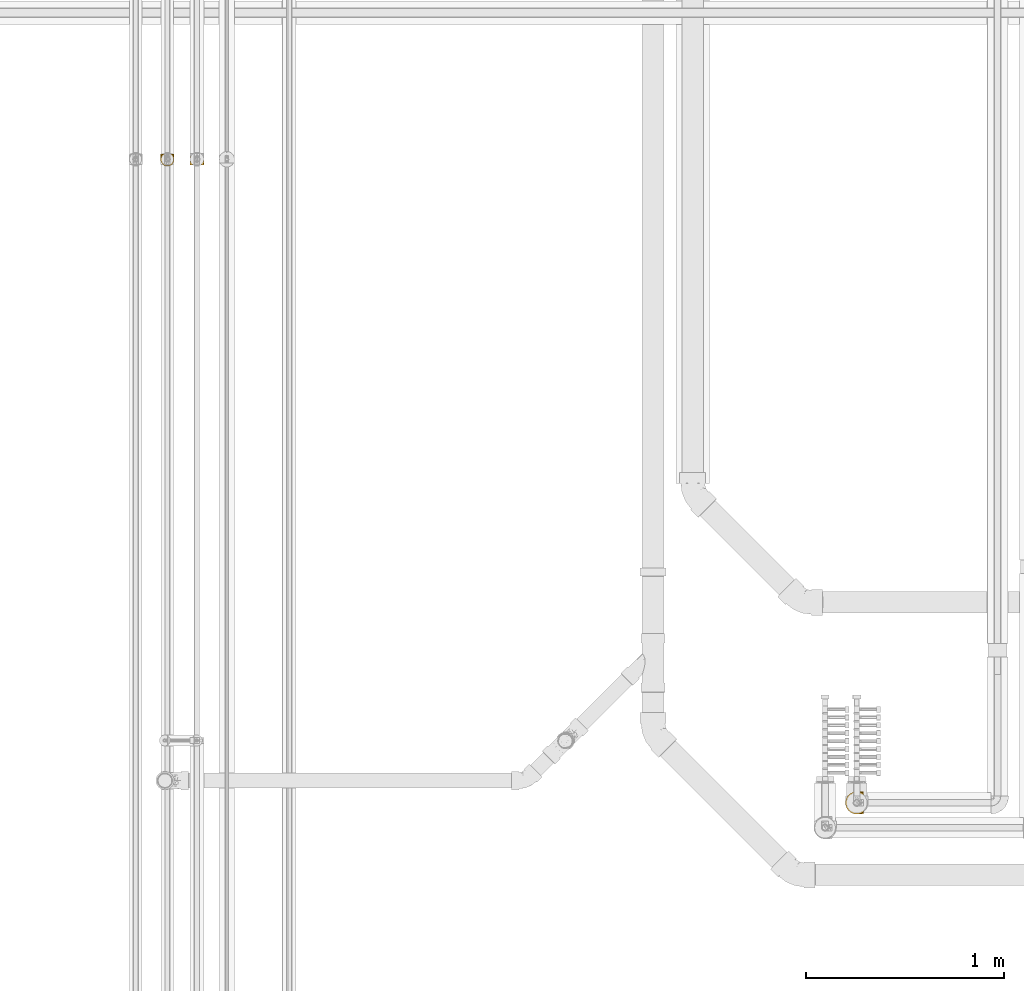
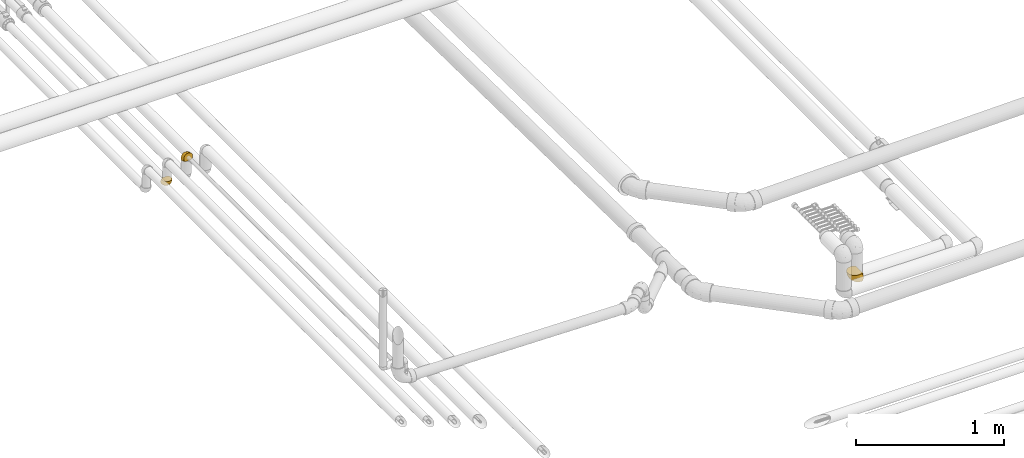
# One storey, part 17 of 83: 3 coverings.
"""IFC2X3 building model written with IfcOpenShell, lengths in millimetres."""

from ifc_helpers import new_model, entity, si_unit, converted_unit, derived_unit, direction, frame, origin_with_axes, place, context, subcontext, project, spatial, open_shell, surface_model, source, transform, mapped, element, save


model = new_model("IFC2X3")

# Units and contexts
model_context = context("Model", 3, precision=0.01, world=frame((0.0, 4.29681676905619e-09, 0.0)), true_north=direction((4.01073788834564e-13, 1.0)))
plan_context = context("Plan", 3, precision=0.01, world=frame((0.0, 4.29681676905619e-09, 0.0)), true_north=direction((4.01073788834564e-13, 1.0)))
body_context = subcontext(model_context, "Body", "Model", "MODEL_VIEW")
ifc_project = project(units=[converted_unit("PLANEANGLEUNIT", "DEGREE", entity("IfcPositiveLengthMeasure", 0.0174532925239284), si_unit("PLANEANGLEUNIT", "RADIAN"), dimensions=[0, 0, 0, 0, 0, 0, 0]), si_unit("AREAUNIT", "SQUARE_METRE"), si_unit("LENGTHUNIT", "METRE", prefix="MILLI"), si_unit("MASSUNIT", "GRAM", prefix="KILO"), si_unit("POWERUNIT", "WATT"), si_unit("PRESSUREUNIT", "PASCAL"), si_unit("FORCEUNIT", "NEWTON", prefix="KILO"), si_unit("ELECTRICVOLTAGEUNIT", "VOLT"), si_unit("ELECTRICCURRENTUNIT", "AMPERE"), si_unit("THERMODYNAMICTEMPERATUREUNIT", "DEGREE_CELSIUS"), si_unit("TIMEUNIT", "SECOND"), si_unit("VOLUMEUNIT", "CUBIC_METRE"), derived_unit("LINEARVELOCITYUNIT", [(si_unit("LENGTHUNIT", "METRE"), 1), (si_unit("TIMEUNIT", "SECOND"), -1)]), derived_unit("VOLUMETRICFLOWRATEUNIT", [(si_unit("VOLUMEUNIT", "CUBIC_METRE"), 1), (si_unit("TIMEUNIT", "SECOND"), -1)]), derived_unit("THERMALTRANSMITTANCEUNIT", [(si_unit("POWERUNIT", "WATT"), 1), (si_unit("THERMODYNAMICTEMPERATUREUNIT", "KELVIN"), -1), (si_unit("AREAUNIT", "SQUARE_METRE"), -1)]), derived_unit("SOUNDPRESSUREUNIT", [(si_unit("PRESSUREUNIT", "PASCAL"), 1)])], contexts=[model_context, plan_context])

# Site, building, storey
site_placement = place(None, frame((0.0, -4.29681676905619e-09, 0.0), z_axis=(0.0, 0.0, 1.0), x_axis=(1.0, 0.0, 0.0)))
site = spatial("IfcSite", under=ifc_project, at=site_placement, Name="ENGM", CompositionType="ELEMENT")
building_placement = place(site_placement, frame((0.0, 4.29681676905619e-09, 0.0), z_axis=(0.0, 0.0, 1.0), x_axis=(1.0, 0.0, 0.0)))
building = spatial("IfcBuilding", under=site, at=building_placement, Name="TI", CompositionType="ELEMENT")
storey_placement = place(building_placement, frame((0.0, 0.0, 204000.0), z_axis=(0.0, 0.0, 1.0), x_axis=(1.0, 0.0, 0.0)))
storey = spatial("IfcBuildingStorey", under=building, at=storey_placement, Name="Nivå D", CompositionType="ELEMENT", Elevation=204000.0)

# Coverings
shared_shape_1 = source(origin_with_axes(), body_context, "Body", "SurfaceModel", [
    surface_model("IfcShellBasedSurfaceModel", [(-0.0006, 33.8006, 56.9), (24.69381, 33.80104, 51.26203), (35.48365, 33.80124, 44.48008), (51.27049, 33.80152, 24.67561), (56.8994, 33.80162, 0.0), (44.49309, 33.8014, 35.46718), (-33.34119, 33.80001, -46.10873), (-11.7756, 33.80039, 55.6683), (-33.34119, 33.80001, 46.10873), (-23.05765, 33.80019, 52.01906), (12.66462, 33.80083, 55.47253), (55.47615, 33.8016, 12.64674), (55.47193, 33.8016, -12.66523), (44.47948, 33.8014, -35.48425), (51.26142, 33.80152, -24.69442), (24.675, 33.80104, -51.27108), (35.46658, 33.80124, -44.4937), (-23.07764, 33.80019, -52.01019), (-11.797, 33.80039, -55.66377), (12.64614, 33.80083, -55.47675), (-0.0006, 33.8006, -56.9), (-33.8006, 33.34059, 46.10873), (-33.8006, 33.34059, -46.10873), (-33.8006, 23.06476, -52.01564), (-33.8006, 11.78813, -55.66552), (-33.8006, 0.0, -56.9), (-33.8006, 0.0, 56.9), (-33.8006, 23.06476, 52.01564), (-33.8006, 11.78813, 55.66552), (-33.8006, -14.7268, 54.96118), (-33.8006, -14.7268, -54.96118), (-33.8006, -28.45, -49.27684), (-33.8006, -40.23438, -40.23438), (-33.8006, -49.27684, -28.45), (-33.8006, -54.96118, -14.7268), (-33.8006, -54.96118, 14.7268), (-33.8006, -40.23438, 40.23438), (-33.8006, -28.45, 49.27684), (-33.8006, -49.27684, 28.45), (-33.8006, -56.9, 0.0), (-33.47575, 33.47515, 46.10873), (-33.47575, 33.47515, -46.10873), (-32.08425, 25.44579, -50.9801), (-33.67725, 33.39168, -46.10873), (-30.83373, 26.67841, -50.56853), (-15.87372, 20.68736, -55.70725), (-10.71459, 10.7144, -56.9), (-22.5992, 20.69421, -54.43704), (-25.35052, 2.26422, -56.9), (-28.51496, 18.40378, -54.135), (-23.15392, 12.21933, -56.06087), (-33.43401, 33.5759, -46.10873), (-33.39228, 33.67666, -46.10873), (-18.41271, 28.52216, -54.13163), (-25.86329, 27.59398, -51.71806), (-10.59434, 29.15871, -55.99026), (-2.26467, 25.35048, -56.9), (-33.5765, 33.43342, -46.10873), (-9.88764, 23.8953, -56.34653), (-4.52874, 16.90035, -56.9), (-26.54006, 21.158, -53.55509), (-29.02828, 27.72301, -50.57473), (-16.90043, 4.52844, -56.9), (-1.89598, 26.72654, -56.9), (-21.00926, -10.08494, -55.63933), (-24.15012, -20.93037, -52.56875), (-12.53302, -17.54428, -52.56875), (19.51204, -39.57746, 0.0), (-5.77245, -52.46072, 0.0), (2.4371, -47.93749, -12.0463), (-0.21004, 3.80006, -55.77941), (-12.19549, -6.31893, -55.67008), (29.08099, 21.56033, -48.18545), (17.10558, 20.64168, -53.71172), (-16.08738, -32.30653, -45.14181), (-15.67908, -54.07833, -10.47596), (-11.38984, -49.61054, -21.77469), (-20.00443, -43.92692, -34.63852), (9.13918, -40.31326, -23.42601), (27.50751, -27.50701, -20.95208), (25.84468, -21.53962, -31.23004), (42.40332, -10.08609, -17.51361), (18.75401, -18.33403, -40.2421), (10.44148, -13.49576, -47.73783), (21.60397, -5.46879, -45.54283), (9.23071, 7.63619, -54.43657), (24.82707, 7.97946, -48.18545), (37.87045, 15.27418, -40.2421), (12.63963, -31.0244, -33.56901), (50.91987, 11.90043, -18.79808), (30.72101, -7.8171, -37.28822), (41.21998, 0.75966, -30.27981), (46.66341, 18.13811, -30.27981), (18.39182, -38.38015, -13.50893), (32.12075, -27.27159, -9.72351), (-3.44213, -39.07093, -34.63852), (1.29896, -23.83542, -45.85992), (52.46062, 5.77339, 0.0), (39.57781, -19.51134, 0.0), (1.28462, -6.9486, -53.27975), (24.84359, 7.9721, 48.17409), (29.09876, 21.55697, 48.17409), (17.12365, 20.63648, 53.70514), (-15.67921, -54.07839, 10.47577), (-11.39162, -49.61102, 21.77469), (9.13966, -40.3128, 23.42635), (-3.44676, -39.07286, 34.63852), (-20.00717, -43.92741, 34.63852), (18.76497, -18.34491, 40.22666), (12.6287, -31.03341, 33.56769), (25.82876, -21.56998, 31.21635), (18.38435, -38.38474, 13.51159), (2.43664, -47.93759, 12.04673), (50.92645, 11.8996, 18.77928), (-25.35052, 2.26422, 56.9), (-21.00926, -10.08494, 55.63933), (-12.19549, -6.31893, 55.67008), (-16.08738, -32.30653, 45.14181), (-12.53302, -17.54428, 52.56875), (-24.15012, -20.93037, 52.56875), (1.30579, -23.8339, 45.85827), (32.10846, -27.28775, 9.71216), (27.51046, -27.50997, 20.94153), (46.67453, 18.13581, 30.26172), (9.23494, 7.61981, 54.43288), (1.28189, -6.95595, 53.27833), (10.46135, -13.49424, 47.72974), (-16.90043, 4.52844, 56.9), (42.40865, -10.09091, 17.49188), (41.23042, 0.75517, 30.26172), (37.8854, 15.27032, 40.22666), (30.73476, -7.84402, 37.25806), (-4.52874, 16.90035, 56.9), (-1.89598, 26.72654, 56.9), (-0.2125, 3.79333, 55.77887), (-10.71459, 10.7144, 56.9), (21.63643, -5.47657, 45.51961), (-29.1581, 10.59357, 55.99033), (-23.89225, 9.87943, 56.34772), (-24.6185, 17.65116, 54.82575), (-29.75359, 25.81072, 51.18962), (-28.51496, 18.40378, 54.135), (-15.87372, 20.68736, 55.70725), (-25.86329, 27.59398, 51.71806), (-22.5992, 20.69421, 54.43704), (-26.85135, 30.69663, 50.51466), (-33.39228, 33.67666, 46.10873), (-33.43401, 33.5759, 46.10873), (-25.55783, 31.93375, 50.94172), (-18.39568, 28.50768, 54.13837), (-2.26467, 25.35048, 56.9), (-33.67725, 33.39168, 46.10873), (-28.34711, 27.59551, 50.84629), (-33.5765, 33.43342, 46.10873)], [open_shell([[[0, 1, 2]], [[2, 3, 4]], [[3, 2, 5]], [[2, 6, 7]], [[0, 2, 7]], [[8, 9, 7]], [[7, 6, 8]], [[0, 10, 1]], [[4, 3, 11]], [[4, 12, 13]], [[4, 13, 6]], [[13, 12, 14]], [[15, 13, 16]], [[17, 6, 18]], [[19, 13, 15]], [[6, 13, 19]], [[20, 18, 6]], [[20, 6, 19]], [[4, 6, 2]], [[21, 22, 23]], [[24, 25, 23]], [[26, 23, 25]], [[27, 21, 28]], [[23, 28, 21]], [[23, 26, 28]], [[25, 29, 26]], [[25, 30, 29]], [[30, 31, 32]], [[32, 33, 34]], [[32, 34, 30]], [[30, 34, 35]], [[36, 37, 35]], [[36, 35, 38]], [[37, 30, 35]], [[34, 39, 35]], [[30, 37, 29]], [[22, 21, 40]], [[41, 22, 40]], [[8, 6, 40]], [[41, 40, 6]], [[42, 43, 44]], [[45, 46, 47]], [[48, 49, 50]], [[51, 52, 53]], [[49, 24, 42]], [[22, 43, 42]], [[24, 23, 42]], [[54, 41, 51]], [[18, 55, 17]], [[51, 53, 54]], [[45, 47, 54]], [[17, 52, 6]], [[55, 20, 56]], [[43, 57, 44]], [[45, 58, 59]], [[17, 53, 52]], [[58, 55, 56]], [[50, 49, 60]], [[59, 58, 56]], [[54, 47, 61]], [[53, 58, 45]], [[53, 45, 54]], [[46, 62, 47]], [[45, 59, 46]], [[22, 42, 23]], [[44, 60, 49]], [[60, 61, 47]], [[42, 44, 49]], [[41, 61, 57]], [[61, 44, 57]], [[50, 47, 62]], [[61, 60, 44]], [[54, 61, 41]], [[47, 50, 60]], [[48, 25, 24]], [[48, 24, 49]], [[50, 62, 48]], [[55, 58, 53]], [[17, 55, 53]], [[55, 18, 20]], [[63, 20, 19]], [[25, 48, 64]], [[65, 31, 30]], [[64, 66, 65]], [[67, 68, 69]], [[46, 70, 71]], [[72, 73, 15]], [[74, 31, 65]], [[34, 75, 39]], [[33, 76, 34]], [[77, 33, 32]], [[74, 32, 31]], [[69, 76, 78]], [[33, 77, 76]], [[79, 80, 81]], [[82, 83, 84]], [[85, 59, 73]], [[73, 86, 85]], [[87, 86, 72]], [[87, 16, 13]], [[73, 59, 63]], [[73, 19, 15]], [[79, 78, 88]], [[89, 14, 12]], [[90, 87, 91]], [[92, 87, 13]], [[81, 91, 89]], [[67, 93, 94]], [[90, 91, 80]], [[95, 74, 96]], [[13, 14, 92]], [[12, 97, 89]], [[12, 4, 97]], [[91, 92, 89]], [[79, 88, 80]], [[81, 97, 98]], [[96, 74, 66]], [[15, 16, 72]], [[48, 71, 64]], [[63, 19, 73]], [[77, 74, 95]], [[78, 76, 95]], [[75, 76, 69]], [[86, 90, 84]], [[85, 99, 70]], [[89, 92, 14]], [[87, 92, 91]], [[87, 72, 16]], [[73, 72, 86]], [[97, 81, 89]], [[94, 81, 98]], [[99, 96, 66]], [[96, 82, 88]], [[71, 66, 64]], [[85, 86, 84]], [[88, 78, 95]], [[78, 93, 69]], [[78, 79, 93]], [[75, 69, 68]], [[39, 75, 68]], [[34, 76, 75]], [[94, 93, 79]], [[67, 69, 93]], [[81, 94, 79]], [[67, 94, 98]], [[96, 88, 95]], [[85, 70, 59]], [[88, 82, 80]], [[90, 80, 82]], [[81, 80, 91]], [[84, 90, 82]], [[87, 90, 86]], [[83, 82, 96]], [[84, 83, 85]], [[96, 99, 83]], [[85, 83, 99]], [[30, 25, 64]], [[74, 65, 66]], [[30, 64, 65]], [[71, 48, 62]], [[46, 71, 62]], [[99, 66, 71]], [[74, 77, 32]], [[76, 77, 95]], [[71, 70, 99]], [[59, 70, 46]], [[100, 101, 102]], [[39, 68, 103]], [[104, 105, 106]], [[104, 106, 107]], [[108, 109, 110]], [[111, 105, 112]], [[105, 109, 106]], [[3, 113, 11]], [[114, 115, 116]], [[97, 11, 113]], [[117, 118, 119]], [[38, 35, 104]], [[29, 119, 115]], [[119, 29, 37]], [[1, 10, 102]], [[117, 120, 118]], [[121, 122, 111]], [[29, 115, 26]], [[3, 5, 123]], [[124, 125, 126]], [[116, 127, 114]], [[113, 3, 123]], [[4, 11, 97]], [[128, 113, 129]], [[110, 128, 129]], [[5, 2, 130]], [[124, 100, 102]], [[129, 123, 130]], [[2, 1, 101]], [[110, 131, 108]], [[102, 132, 124]], [[36, 38, 107]], [[117, 37, 36]], [[101, 130, 2]], [[131, 130, 100]], [[10, 0, 133]], [[132, 102, 133]], [[113, 128, 97]], [[107, 117, 36]], [[10, 133, 102]], [[106, 109, 120]], [[68, 112, 103]], [[105, 111, 122]], [[134, 132, 135]], [[125, 118, 120]], [[102, 101, 1]], [[130, 101, 100]], [[130, 123, 5]], [[113, 123, 129]], [[121, 128, 122]], [[97, 128, 98]], [[106, 120, 117]], [[131, 136, 108]], [[126, 108, 136]], [[124, 134, 125]], [[105, 104, 112]], [[122, 110, 109]], [[103, 112, 104]], [[67, 112, 68]], [[104, 35, 103]], [[39, 103, 35]], [[112, 67, 111]], [[121, 67, 98]], [[67, 121, 111]], [[128, 121, 98]], [[122, 109, 105]], [[116, 135, 127]], [[120, 109, 108]], [[128, 110, 122]], [[131, 110, 129]], [[130, 131, 129]], [[136, 131, 100]], [[124, 136, 100]], [[108, 126, 120]], [[124, 126, 136]], [[125, 120, 126]], [[117, 119, 37]], [[115, 119, 118]], [[115, 118, 116]], [[115, 114, 26]], [[118, 125, 116]], [[116, 125, 134]], [[104, 107, 38]], [[117, 107, 106]], [[132, 134, 124]], [[116, 134, 135]], [[114, 137, 26]], [[127, 138, 114]], [[139, 140, 141]], [[142, 143, 144]], [[145, 146, 147]], [[28, 137, 27]], [[7, 9, 148]], [[142, 149, 143]], [[149, 150, 7]], [[151, 21, 27]], [[150, 0, 7]], [[145, 148, 146]], [[40, 143, 147]], [[138, 137, 114]], [[138, 139, 141]], [[141, 151, 27]], [[140, 151, 141]], [[152, 153, 140]], [[144, 135, 142]], [[8, 146, 148]], [[145, 143, 149]], [[143, 145, 147]], [[149, 142, 132]], [[135, 144, 127]], [[135, 132, 142]], [[148, 145, 149]], [[7, 148, 149]], [[8, 148, 9]], [[149, 132, 150]], [[139, 127, 144]], [[137, 138, 141]], [[27, 137, 141]], [[137, 28, 26]], [[127, 139, 138]], [[152, 143, 40]], [[144, 143, 152]], [[144, 140, 139]], [[151, 140, 153]], [[153, 152, 40]], [[140, 144, 152]]])]),
])
covering_1_placement = place(storey_placement, frame((603209.87398, 693361.26264, 6040.49723000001), z_axis=(0.0, -1.0, 0.0), x_axis=(0.0, 0.0, -1.0)))
element("IfcCovering", 1, at=covering_1_placement, inside=storey, Name="BI11T - Rørskål m/Al.folie - varme 60-25", PredefinedType="INSULATION", context=body_context, shape_type="MappedRepresentation", body=[
    mapped(shared_shape_1, transform((0.0, 0.0, 0.0), scale=1.0)),
])
shared_shape_2 = source(origin_with_axes(), body_context, "Body", "SurfaceModel", [
    surface_model("IfcShellBasedSurfaceModel", [(15.19135, 28.00016, 31.53125), (21.82738, 28.00018, 27.35984), (27.36807, 28.0002, 21.81705), (31.53625, 28.00021, 15.18087), (34.12339, 28.00022, 7.78379), (7.79202, 28.00013, 34.12159), (-27.7887, 28.0, -21.27895), (-7.94643, 28.00007, 34.08601), (-0.0001, 28.0001, 35.0), (-22.22062, 28.00002, 27.0416), (-27.7887, 28.0, 21.27895), (-15.48887, 28.00004, 31.38627), (34.12149, 28.00022, -7.79212), (27.35974, 28.0002, -21.82748), (31.53115, 28.00021, -15.19145), (21.81695, 28.00018, -27.36817), (15.18077, 28.00016, -31.53635), (-15.50285, 28.00004, -31.37937), (-22.2319, 28.00002, -27.03234), (-7.96065, 28.00007, -34.08269), (-0.0001, 28.0001, -35.0), (7.78369, 28.00013, -34.12349), (34.9999, 28.00023, 0.0), (-28.0001, 27.7886, -21.27895), (-28.0001, 22.224, -27.03875), (-28.0001, 15.49576, -31.38282), (-28.0001, -9.05867, -33.8074), (-28.0001, 7.95617, -34.08371), (-28.0001, 0.0, 35.0), (-28.0001, -33.8074, -9.05867), (-28.0001, 27.7886, 21.27895), (-28.0001, 22.224, 27.03875), (-28.0001, 15.49576, 31.38282), (-28.0001, 7.95617, 34.08371), (-28.0001, 0.0, -35.0), (-28.0001, -17.5, -30.31089), (-28.0001, -30.31089, -17.5), (-28.0001, -24.74874, -24.74874), (-28.0001, -33.8074, 9.05867), (-28.0001, -9.05867, 33.8074), (-28.0001, -24.74874, 24.74874), (-28.0001, -17.5, 30.31089), (-28.0001, -30.31089, 17.5), (-28.0001, -35.0, 0.0), (-27.85062, 27.85052, 21.27895), (-27.85062, 27.85052, -21.27895), (-3.75136, 14.00006, -35.0), (-14.92666, 14.92661, -33.68283), (-21.84462, 21.413, -29.40386), (-14.00007, 3.75131, -35.0), (23.72215, -5.62535, -9.48025), (31.10246, 12.76626, -11.56454), (30.20437, 3.8911, 0.0), (-21.00009, 1.87565, -35.0), (-18.11466, -5.91539, -34.22455), (-20.81212, -12.76505, -32.33578), (-12.15932, -10.24299, -32.33579), (14.69522, 9.28746, -29.63858), (17.76554, 19.13682, -29.63858), (23.07491, 14.83663, -24.75346), (13.02315, -12.80638, -18.25464), (17.82286, -3.45501, -21.54835), (21.37805, -4.69301, -15.82079), (-1.45907, 22.5551, -35.0), (-9.6708, -31.63977, -6.49098), (-12.30705, -30.25921, -13.39392), (32.51309, 15.49796, 0.0), (-18.19598, -26.8988, -21.30665), (-15.2386, -19.62657, -27.76737), (-8.87571, 8.87568, -35.0), (-1.952, 4.75663, -34.31096), (-11.29234, -3.02502, -34.24346), (4.64613, 8.16423, -33.48076), (10.30323, 18.12834, -33.0376), (28.58056, 17.0426, -18.62661), (5.65655, -4.27599, -29.62874), (-2.58382, -13.58879, -28.19294), (-1.71706, -2.52065, -32.77581), (20.70081, 5.39108, -23.76695), (24.78457, 4.86529, -18.62661), (16.49051, -14.16973, -10.77517), (-1.82, -26.1101, -13.92481), (1.45253, -26.68243, -7.84362), (-6.45578, -23.43774, -21.30665), (7.94694, -20.85264, -12.60121), (11.62816, -20.28702, -6.08898), (16.54771, -16.54765, 0.0), (23.37604, -6.32827, 0.0), (-15.49785, -32.51314, 0.0), (3.7941, -17.38153, -21.76348), (9.5863, -9.00262, -24.75346), (14.04286, 0.2754, -26.92528), (9.49929, 2.95504, -30.54179), (-3.89099, -30.20439, 0.0), (6.32836, -23.37602, 0.0), (-1.71976, -2.52548, 32.7751), (5.67007, -4.26709, 29.62647), (9.52504, 2.95367, 30.52936), (-9.67079, -31.6398, 6.49085), (-1.81306, -26.10439, 13.9297), (-12.30455, -30.25853, 13.39392), (-6.44921, -23.43499, 21.30665), (-18.1921, -26.89811, 21.30665), (-15.2386, -19.62657, 27.76737), (11.62858, -20.28754, 6.08522), (16.5033, -14.15984, 10.76751), (7.95762, -20.8472, 12.59617), (14.70824, 9.29069, 29.6319), (17.77686, 19.1394, 29.6319), (10.31294, 18.12762, 33.03425), (13.03759, -12.79974, 18.24554), (3.80693, -17.37907, 21.75675), (-21.00009, 1.87565, 35.0), (-18.11466, -5.91539, 34.22455), (-11.29234, -3.02502, 34.24346), (-1.45907, 22.5551, 35.0), (-12.15932, -10.24299, 32.33579), (-20.81212, -12.76505, 32.33578), (23.73558, -5.60671, 9.47631), (31.10716, 12.77108, 11.55496), (24.79489, 4.87222, 18.61598), (28.58812, 17.04651, 18.61598), (23.08497, 14.83783, 24.74402), (-14.00007, 3.75131, 35.0), (9.60714, -8.9949, 24.74402), (17.8381, -3.4494, 21.53632), (14.06468, 0.28354, 26.91386), (4.64895, 8.15239, 33.47816), (-3.75136, 14.00006, 35.0), (-2.57146, -13.58539, 28.19031), (20.71372, 5.39433, 23.75576), (1.45329, -26.682, 7.84372), (-1.95375, 4.75227, 34.31064), (-8.87571, 8.87568, 35.0), (20.74059, -5.68, 15.77135), (-14.92727, 14.92722, 33.68259), (-21.40549, 21.8451, 29.4072)], [open_shell([[[0, 1, 2]], [[2, 3, 4]], [[0, 2, 5]], [[5, 2, 6]], [[7, 8, 6]], [[6, 8, 5]], [[9, 6, 10]], [[11, 6, 9]], [[11, 7, 6]], [[2, 4, 12]], [[6, 2, 12]], [[13, 12, 14]], [[13, 15, 16]], [[12, 13, 6]], [[16, 6, 13]], [[6, 17, 18]], [[17, 6, 19]], [[6, 20, 19]], [[20, 6, 21]], [[6, 16, 21]], [[12, 4, 22]], [[23, 24, 25]], [[26, 25, 27]], [[23, 25, 28]], [[29, 28, 25]], [[30, 23, 31]], [[32, 28, 33]], [[28, 32, 31]], [[23, 28, 31]], [[26, 27, 34]], [[26, 35, 36]], [[36, 29, 26]], [[36, 35, 37]], [[38, 28, 29]], [[39, 40, 41]], [[28, 40, 39]], [[40, 38, 42]], [[38, 40, 28]], [[29, 43, 38]], [[25, 26, 29]], [[23, 30, 44]], [[45, 23, 44]], [[10, 6, 44]], [[45, 44, 6]], [[46, 47, 19]], [[25, 48, 47]], [[34, 27, 49]], [[49, 27, 47]], [[25, 24, 48]], [[24, 23, 45]], [[45, 6, 18]], [[47, 48, 17]], [[47, 46, 49]], [[17, 19, 47]], [[19, 20, 46]], [[17, 48, 18]], [[27, 25, 47]], [[45, 18, 48]], [[45, 48, 24]], [[50, 51, 52]], [[34, 53, 54]], [[55, 35, 26]], [[54, 56, 55]], [[57, 58, 59]], [[60, 61, 62]], [[63, 20, 21]], [[51, 50, 62]], [[64, 29, 65]], [[51, 12, 66]], [[67, 36, 37]], [[68, 37, 35]], [[36, 65, 29]], [[36, 67, 65]], [[68, 35, 55]], [[69, 70, 71]], [[72, 46, 73]], [[63, 21, 73]], [[13, 14, 74]], [[59, 15, 13]], [[73, 46, 63]], [[73, 21, 16]], [[58, 73, 16]], [[75, 76, 77]], [[73, 57, 72]], [[78, 79, 61]], [[78, 59, 79]], [[60, 62, 80]], [[64, 81, 82]], [[51, 14, 12]], [[52, 51, 66]], [[79, 74, 51]], [[83, 68, 76]], [[74, 59, 13]], [[84, 85, 82]], [[15, 58, 16]], [[76, 68, 56]], [[86, 50, 87]], [[53, 71, 54]], [[67, 68, 83]], [[81, 84, 82]], [[29, 64, 88]], [[60, 89, 90]], [[71, 70, 77]], [[57, 91, 92]], [[72, 77, 70]], [[12, 22, 66]], [[51, 74, 14]], [[59, 74, 79]], [[59, 58, 15]], [[73, 58, 57]], [[77, 76, 56]], [[76, 90, 89]], [[71, 56, 54]], [[91, 75, 92]], [[88, 64, 93]], [[88, 43, 29]], [[85, 86, 94]], [[94, 93, 82]], [[64, 82, 93]], [[80, 85, 84]], [[94, 82, 85]], [[81, 64, 65]], [[65, 83, 81]], [[89, 81, 83]], [[60, 80, 84]], [[80, 50, 86]], [[84, 81, 89]], [[61, 60, 90]], [[84, 89, 60]], [[76, 89, 83]], [[91, 61, 90]], [[62, 61, 79]], [[75, 91, 90]], [[78, 57, 59]], [[76, 75, 90]], [[92, 77, 72]], [[51, 62, 79]], [[62, 50, 80]], [[61, 91, 78]], [[57, 78, 91]], [[77, 92, 75]], [[72, 70, 46]], [[72, 57, 92]], [[68, 67, 37]], [[65, 67, 83]], [[26, 34, 54]], [[68, 55, 56]], [[26, 54, 55]], [[71, 53, 49]], [[69, 71, 49]], [[77, 56, 71]], [[50, 52, 87]], [[86, 85, 80]], [[46, 70, 69]], [[95, 96, 97]], [[93, 98, 88]], [[98, 99, 100]], [[100, 101, 102]], [[103, 41, 40]], [[104, 105, 106]], [[107, 108, 109]], [[110, 111, 106]], [[112, 113, 114]], [[5, 115, 109]], [[103, 116, 117]], [[5, 8, 115]], [[39, 117, 113]], [[117, 39, 41]], [[0, 5, 109]], [[42, 38, 100]], [[118, 52, 119]], [[102, 103, 40]], [[120, 121, 122]], [[1, 122, 2]], [[42, 102, 40]], [[119, 3, 121]], [[119, 66, 4]], [[1, 0, 108]], [[122, 121, 2]], [[114, 123, 112]], [[124, 125, 126]], [[107, 109, 127]], [[109, 128, 127]], [[3, 119, 4]], [[103, 129, 116]], [[108, 122, 1]], [[118, 119, 120]], [[107, 126, 130]], [[125, 124, 110]], [[3, 2, 121]], [[118, 86, 87]], [[128, 109, 115]], [[39, 113, 28]], [[101, 111, 129]], [[38, 88, 98]], [[98, 131, 99]], [[93, 94, 131]], [[106, 105, 110]], [[132, 128, 133]], [[95, 116, 129]], [[66, 119, 52]], [[66, 22, 4]], [[119, 121, 120]], [[109, 108, 0]], [[122, 108, 107]], [[101, 129, 103]], [[126, 96, 124]], [[96, 129, 124]], [[127, 132, 95]], [[38, 43, 88]], [[104, 131, 94]], [[38, 98, 100]], [[105, 104, 86]], [[86, 104, 94]], [[131, 104, 106]], [[131, 106, 99]], [[131, 98, 93]], [[111, 99, 106]], [[101, 100, 99]], [[128, 132, 127]], [[125, 134, 120]], [[105, 118, 134]], [[111, 110, 124]], [[134, 125, 110]], [[120, 122, 130]], [[130, 125, 120]], [[97, 96, 126]], [[126, 107, 97]], [[129, 96, 95]], [[129, 111, 124]], [[111, 101, 99]], [[105, 134, 110]], [[120, 134, 118]], [[107, 130, 122]], [[126, 125, 130]], [[107, 127, 97]], [[114, 133, 123]], [[95, 97, 127]], [[100, 102, 42]], [[103, 102, 101]], [[103, 117, 41]], [[113, 117, 116]], [[113, 116, 114]], [[113, 112, 28]], [[116, 95, 114]], [[114, 95, 132]], [[86, 118, 105]], [[87, 52, 118]], [[114, 132, 133]], [[33, 28, 123]], [[33, 135, 32]], [[32, 135, 136]], [[30, 31, 44]], [[128, 135, 123]], [[128, 8, 7]], [[33, 123, 135]], [[136, 44, 31]], [[136, 135, 11]], [[9, 10, 44]], [[44, 136, 9]], [[32, 136, 31]], [[7, 11, 135]], [[128, 7, 135]], [[11, 9, 136]]])]),
])
covering_2_placement = place(storey_placement, frame((599881.50429, 696607.7296, 6220.0), z_axis=(-1.0, 0.0, 0.0), x_axis=(0.0, 1.0, 0.0)))
element("IfcCovering", 2, at=covering_2_placement, inside=storey, Name="BI15T - Cellegummi KV 15mm", PredefinedType="INSULATION", context=body_context, shape_type="MappedRepresentation", body=[
    mapped(shared_shape_2, transform((0.0, 0.0, 0.0), scale=1.0)),
])
shared_shape_3 = source(origin_with_axes(), body_context, "Body", "SurfaceModel", [
    surface_model("IfcShellBasedSurfaceModel", [(7.65854, 26.8, 33.53665), (14.93103, 26.8, 30.99072), (21.4533, 26.8, 26.89082), (-26.583, 26.8, -21.83356), (-7.52438, 26.8, 33.567), (30.99573, 26.8, 14.92062), (26.899, 26.8, 21.44304), (0.0, 26.8, 34.4), (-26.583, 26.8, 21.83356), (-14.70935, 26.8, -31.09655), (-21.16359, 26.8, -27.11941), (-7.53901, 26.8, -33.56372), (0.0, 26.8, -34.4), (7.65035, 26.8, -33.53852), (14.92062, 26.8, -30.99573), (-26.8, 26.583, -21.83356), (-26.8, 21.15599, -27.12534), (-26.8, 14.7018, -31.10012), (-26.8, -8.90338, 33.22785), (-26.8, 26.583, 21.83356), (-26.8, 7.53379, -33.56489), (-26.8, 21.15599, 27.12534), (-26.8, 14.7018, 31.10012), (-26.8, 7.53379, 33.56489), (-26.8, 0.0, 34.4), (-26.8, -29.79127, 17.2), (-26.8, 0.0, -34.4), (-26.8, -8.90338, -33.22785), (-26.8, -17.2, -29.79127), (-26.8, -24.32447, -24.32447), (-26.8, -29.79127, -17.2), (-26.8, -34.4, 0.0), (-26.8, -33.22785, -8.90338), (-26.8, -17.2, 29.79127), (-26.8, -24.32447, 24.32447), (-26.8, -33.22785, 8.90338), (-26.64656, 26.64656, 21.83356), (-26.64656, 26.64656, -21.83356), (-3.59052, 13.4, -34.4), (-14.33755, 14.33755, -33.15375), (-20.98278, 20.24865, -29.29104), (-13.4, 3.59052, -34.4), (23.43181, -5.85668, -9.31772), (30.59211, 12.00691, -11.36629), (29.74143, 3.37977, 0.0), (-17.35379, -5.60847, -33.68915), (-10.72157, -3.05952, -33.65653), (-2.19496, -13.46149, -27.70964), (-5.90325, -23.09189, -20.94139), (-14.44362, -19.31464, -27.29136), (-11.50632, -10.12221, -31.78146), (-19.86027, -12.55716, -31.78146), (14.5039, 8.69712, -29.13049), (17.47419, 18.2255, -29.13049), (22.70218, 14.0418, -24.32911), (-8.49526, 8.49526, -34.4), (-1.73573, 4.43438, -33.72277), (-1.40625, 21.55179, -34.4), (21.13117, -4.93531, -15.5496), (-8.95552, -31.11498, -6.38768), (-11.56328, -29.76527, -13.16431), (33.53665, 26.8, -7.65854), (31.96725, 14.56973, 0.0), (-17.29059, -26.4489, -20.94139), (13.00945, -12.79913, -17.94172), (17.64372, -3.70839, -21.17899), (4.67119, 7.67803, -32.90681), (10.14945, 17.27713, -32.47124), (26.89082, 26.8, -21.4533), (30.99072, 26.8, -14.93103), (28.1038, 16.16713, -18.30729), (21.44304, 26.8, -26.899), (5.75988, -4.42453, -29.1208), (-1.4374, -2.65193, -32.21392), (20.41295, 4.88172, -23.35949), (24.42026, 4.35073, -18.30729), (16.40522, -14.15163, -10.5905), (-1.3824, -25.73418, -13.68663), (1.8264, -26.29935, -7.71275), (8.10398, -20.63529, -12.38525), (11.69208, -20.10273, -5.98463), (16.47493, -16.47493, 0.0), (23.10818, -6.54758, 0.0), (-14.56973, -31.96725, 0.0), (4.03594, -17.21397, -21.39036), (9.62885, -9.0633, -24.32911), (-21.55179, 1.40625, -34.4), (13.92099, -0.05311, -26.46374), (9.4576, 2.58417, -30.01827), (34.4, 26.8, 0.0), (-3.37977, -29.74143, 0.0), (6.54758, -23.10818, 0.0), (-16.40302, -11.7882, 31.78146), (-8.96499, -31.08424, 6.55564), (10.63139, -19.08757, 11.50781), (23.44486, -5.83859, 9.31385), (22.71205, 14.04293, 24.31983), (28.11122, 16.17091, 18.29685), (-8.34799, -17.2314, 27.29136), (-13.16926, -25.54575, 20.94139), (1.60724, -19.88713, 20.19204), (14.51664, 8.70018, 29.12392), (17.4853, 18.22796, 29.12392), (10.15899, 17.27639, 32.46794), (17.02293, -8.95279, 17.25897), (-13.98179, -4.14591, 33.74209), (-13.4, 3.59052, 34.4), (-20.1, 1.79526, 34.4), (-1.40625, 21.55179, 34.4), (-16.33213, -31.39885, 11.74535), (-18.40196, -20.19695, 27.29136), (2.37805, -25.95313, 7.88237), (-5.56785, -27.79838, 13.16431), (30.59671, 12.01158, 11.35688), (1.61546, -9.41417, 28.52205), (-9.49504, -8.67307, 31.98214), (24.43036, 4.35742, 18.29685), (33.53852, 26.8, 7.65035), (-8.61019, -0.7535, 33.83371), (-2.54483, 2.9265, 33.63096), (-3.59052, 13.4, 34.4), (-8.49526, 8.49526, 34.4), (18.33244, 2.77456, 24.3201), (4.67405, 7.66653, 32.90424), (-20.5196, -5.89205, 33.78227), (9.64914, -9.05591, 24.31984), (7.49925, -1.10027, 29.66678), (2.2383, -14.80321, 24.70771), (-3.35568, -4.38407, 32.15869), (-14.33836, 14.33836, 33.15344), (-20.24021, 20.9835, 29.29463), (-14.69425, 26.8, 31.10368), (-21.15177, 26.8, 27.12863)], [open_shell([[[0, 1, 2]], [[2, 3, 4]], [[5, 2, 6]], [[5, 3, 2]], [[0, 2, 7]], [[2, 4, 7]], [[4, 3, 8]], [[3, 9, 10]], [[9, 3, 11]], [[12, 11, 3]], [[12, 3, 13]], [[3, 14, 13]], [[15, 16, 17]], [[18, 19, 17]], [[15, 17, 19]], [[17, 20, 18]], [[21, 19, 22]], [[19, 23, 22]], [[23, 19, 24]], [[24, 19, 18]], [[25, 20, 26]], [[27, 28, 29]], [[30, 25, 26]], [[30, 27, 29]], [[31, 30, 32]], [[33, 25, 34]], [[25, 33, 18]], [[25, 31, 35]], [[18, 20, 25]], [[30, 31, 25]], [[26, 27, 30]], [[15, 19, 36]], [[37, 15, 36]], [[8, 3, 36]], [[37, 36, 3]], [[38, 39, 11]], [[17, 40, 39]], [[26, 20, 41]], [[41, 20, 39]], [[17, 16, 40]], [[16, 15, 37]], [[37, 3, 10]], [[39, 40, 9]], [[39, 38, 41]], [[9, 11, 39]], [[11, 12, 38]], [[9, 40, 10]], [[20, 17, 39]], [[37, 10, 40]], [[37, 40, 16]], [[42, 43, 44]], [[45, 41, 46]], [[47, 48, 49]], [[50, 51, 45]], [[52, 53, 54]], [[55, 56, 46]], [[57, 12, 13]], [[43, 42, 58]], [[59, 32, 60]], [[43, 61, 62]], [[63, 30, 29]], [[28, 51, 49]], [[28, 49, 29]], [[30, 63, 60]], [[51, 28, 27]], [[64, 65, 58]], [[66, 38, 67]], [[57, 13, 67]], [[68, 69, 70]], [[54, 71, 68]], [[67, 38, 57]], [[67, 13, 14]], [[53, 67, 14]], [[72, 47, 73]], [[67, 52, 66]], [[74, 75, 65]], [[74, 54, 75]], [[64, 58, 76]], [[59, 77, 78]], [[43, 69, 61]], [[44, 43, 62]], [[75, 70, 43]], [[30, 60, 32]], [[70, 54, 68]], [[79, 80, 78]], [[71, 53, 14]], [[77, 79, 78]], [[81, 42, 82]], [[32, 59, 83]], [[64, 84, 85]], [[46, 56, 73]], [[47, 49, 50]], [[63, 49, 48]], [[27, 26, 86]], [[52, 87, 88]], [[66, 73, 56]], [[61, 89, 62]], [[43, 70, 69]], [[54, 70, 75]], [[54, 53, 71]], [[67, 53, 52]], [[73, 47, 50]], [[47, 85, 84]], [[46, 50, 45]], [[87, 72, 88]], [[83, 59, 90]], [[83, 31, 32]], [[80, 81, 91]], [[91, 90, 78]], [[59, 78, 90]], [[76, 80, 79]], [[91, 78, 80]], [[77, 59, 60]], [[60, 48, 77]], [[84, 77, 48]], [[64, 76, 79]], [[76, 42, 81]], [[79, 77, 84]], [[65, 64, 85]], [[79, 84, 64]], [[47, 84, 48]], [[87, 65, 85]], [[58, 65, 75]], [[72, 87, 85]], [[74, 52, 54]], [[47, 72, 85]], [[88, 73, 66]], [[43, 58, 75]], [[58, 42, 76]], [[65, 87, 74]], [[52, 74, 87]], [[73, 88, 72]], [[66, 56, 38]], [[66, 52, 88]], [[49, 63, 29]], [[60, 63, 48]], [[45, 27, 86]], [[49, 51, 50]], [[27, 45, 51]], [[41, 45, 86]], [[55, 46, 41]], [[73, 50, 46]], [[42, 44, 82]], [[81, 80, 76]], [[38, 56, 55]], [[33, 92, 18]], [[90, 93, 83]], [[94, 81, 95]], [[93, 35, 83]], [[96, 97, 6]], [[98, 99, 100]], [[101, 102, 103]], [[104, 100, 94]], [[105, 106, 107]], [[0, 108, 103]], [[109, 99, 25]], [[0, 7, 108]], [[34, 110, 33]], [[33, 110, 92]], [[1, 0, 103]], [[111, 94, 112]], [[95, 44, 113]], [[98, 114, 115]], [[116, 97, 96]], [[2, 96, 6]], [[35, 93, 109]], [[113, 5, 97]], [[113, 62, 117]], [[2, 1, 102]], [[105, 118, 106]], [[119, 120, 121]], [[122, 116, 96]], [[101, 103, 123]], [[103, 120, 123]], [[5, 113, 117]], [[25, 99, 34]], [[102, 96, 2]], [[95, 113, 116]], [[122, 96, 101]], [[95, 104, 94]], [[5, 6, 97]], [[95, 81, 82]], [[120, 103, 108]], [[92, 105, 124]], [[125, 126, 114]], [[126, 101, 123]], [[100, 99, 112]], [[110, 99, 98]], [[121, 118, 119]], [[126, 125, 122]], [[94, 100, 112]], [[127, 125, 114]], [[111, 112, 93]], [[95, 116, 104]], [[62, 113, 44]], [[62, 89, 117]], [[18, 124, 24]], [[113, 97, 116]], [[103, 102, 1]], [[96, 102, 101]], [[119, 126, 123]], [[118, 121, 106]], [[114, 126, 128]], [[35, 31, 83]], [[91, 111, 90]], [[93, 112, 109]], [[94, 91, 81]], [[90, 111, 93]], [[91, 94, 111]], [[99, 109, 112]], [[25, 35, 109]], [[124, 105, 107]], [[115, 105, 92]], [[122, 104, 116]], [[100, 104, 125]], [[24, 124, 107]], [[92, 124, 18]], [[126, 122, 101]], [[104, 122, 125]], [[115, 114, 128]], [[127, 98, 100]], [[99, 110, 34]], [[92, 110, 98]], [[98, 115, 92]], [[118, 115, 128]], [[115, 118, 105]], [[118, 128, 119]], [[126, 119, 128]], [[120, 119, 123]], [[98, 127, 114]], [[100, 125, 127]], [[82, 44, 95]], [[23, 24, 106]], [[23, 129, 22]], [[22, 129, 130]], [[19, 21, 36]], [[120, 129, 106]], [[120, 7, 4]], [[23, 106, 129]], [[130, 36, 21]], [[130, 129, 131]], [[132, 8, 36]], [[36, 130, 132]], [[22, 130, 21]], [[4, 131, 129]], [[120, 4, 129]], [[131, 132, 130]], [[89, 3, 117]], [[4, 132, 131]], [[14, 3, 71]], [[132, 4, 8]], [[5, 117, 3]], [[89, 61, 69]], [[3, 89, 69]], [[69, 71, 3]], [[71, 69, 68]]])]),
])
covering_3_placement = place(storey_placement, frame((599732.2743, 696607.72915, 6052.40416000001), z_axis=(-1.0, 0.0, 0.0), x_axis=(0.0, -1.0, 0.0)))
element("IfcCovering", 3, at=covering_3_placement, inside=storey, Name="BI10T - Cellegummi 18-32 mm kalde rør", PredefinedType="INSULATION", context=body_context, shape_type="MappedRepresentation", body=[
    mapped(shared_shape_3, transform((0.0, 0.0, 0.0), scale=1.0)),
])

save(model, "model.ifc")
